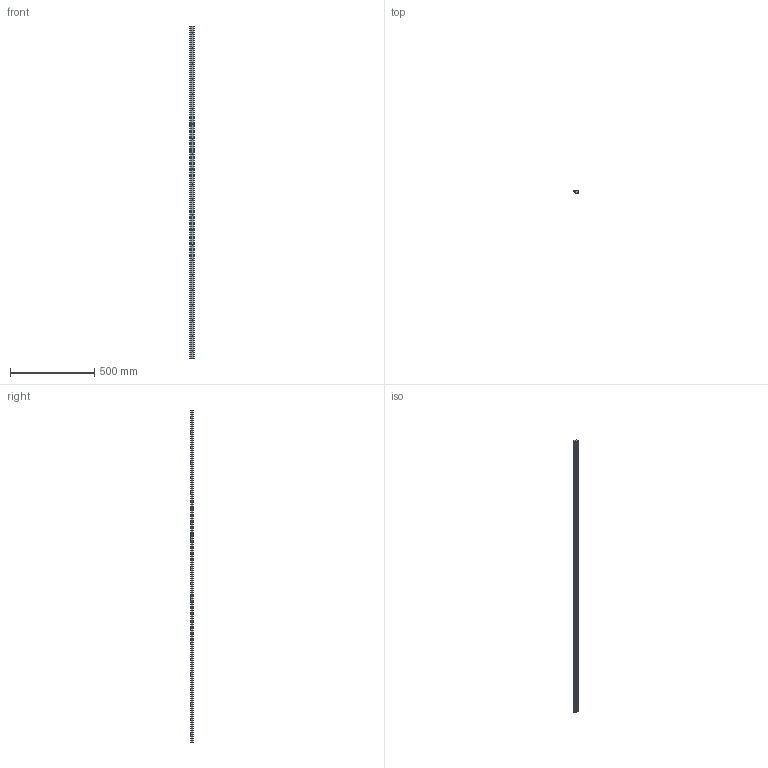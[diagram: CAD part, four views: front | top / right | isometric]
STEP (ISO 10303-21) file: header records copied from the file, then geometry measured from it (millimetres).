
FILE_DESCRIPTION(('STEP AP203'),'1');
FILE_NAME('slide_nmel1976p2.stp','2022-07-04T01:23:04',('TraceParts'),('TraceParts S.A.'),'Spatial InterOp 3D',' ',' ');
FILE_SCHEMA(('CONFIG_CONTROL_DESIGN'));
Length unit declared in the file: millimetre
Products named in the file (1): 1
Bounding box: 28.8 x 15.91 x 1976 mm (x, y, z)
Volume: 634553.4 mm3; surface area: 190064.5 mm2
Topology: 1 solids, 1 shells, 131 faces, 321 edges, 214 vertices
Faces by surface type: cylinder 96, plane 35
Entity records: 4099 total; most frequent: DIRECTION 777, CARTESIAN_POINT 667, ORIENTED_EDGE 642, AXIS2_PLACEMENT_3D 324, EDGE_CURVE 321, VERTEX_POINT 214, EDGE_LOOP 197, CIRCLE 192
